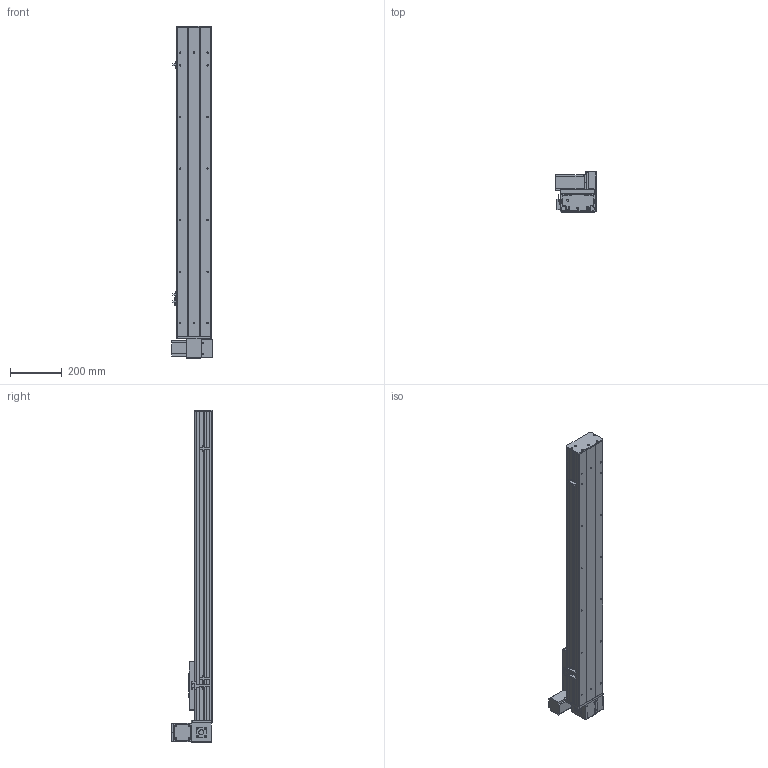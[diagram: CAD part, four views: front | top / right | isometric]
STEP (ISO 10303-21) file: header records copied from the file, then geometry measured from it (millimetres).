
FILE_DESCRIPTION (( 'STEP AP203' ), '1' );
FILE_NAME ('Y135CB-D90-S900-UL-P400W.STEP', '2020-02-18T07:18:18', ( '微软用户' ), ( '微软中国' ), 'SwSTEP 2.0', 'SolidWorks 2017', '' );
FILE_SCHEMA (( 'CONFIG_CONTROL_DESIGN' ));
Length unit declared in the file: millimetre
Products named in the file (18): 5CB --掛极耜裔啣-; Y10B--々湍喘謫眊--666; C-詩湍揤踡え-陔; Y135CB-耜裔; Y135CB-D90-S900-UL-P400W; 135CB--詩湍-CE; 135CB---遴掛极.-; Y100-135俋离換覜ん--; 35CB---喘謫眊楊擘啣; Y135C-陔俋离換覜結え-; 0B-埴倛裔啣; 5C--俋欶; 0B-源倛裔啣; C-雄赽釱--; 0B-萇儂楊擘啣; Y10B-耜蚾蟀諉啣----; san松下电机400不带刹车----; 00B-俋欶BM--
Assembly tree (21 placements, depth 2):
  Y135CB-D90-S900-UL-P400W
    Y135CB-耜裔
    135CB---遴掛极.-
    35CB---喘謫眊楊擘啣
    0B-埴倛裔啣
    0B-源倛裔啣
    0B-萇儂楊擘啣
    san松下电机400不带刹车----
    5CB --掛极耜裔啣-  x2
    C-詩湍揤踡え-陔  x2
    135CB--詩湍-CE
    Y100-135俋离換覜ん--  x3
    Y135C-陔俋离換覜結え-
    5C--俋欶
    C-雄赽釱--
    Y10B-耜蚾蟀諉啣----
    00B-俋欶BM--
    Y10B--々湍喘謫眊--666
Bounding box: 157 x 158.7 x 1288 mm (x, y, z)
Volume: 4126647.7 mm3; surface area: 1612019.6 mm2
Topology: 21 solids, 21 shells, 945 faces, 2527 edges, 1674 vertices
Faces by surface type: cylinder 473, plane 456, cone 16
Entity records: 29349 total; most frequent: DIRECTION 4875, CARTESIAN_POINT 4812, ORIENTED_EDGE 4530, EDGE_CURVE 2265, AXIS2_PLACEMENT_3D 1777, VERTEX_POINT 1502, VECTOR 1321, LINE 1321
